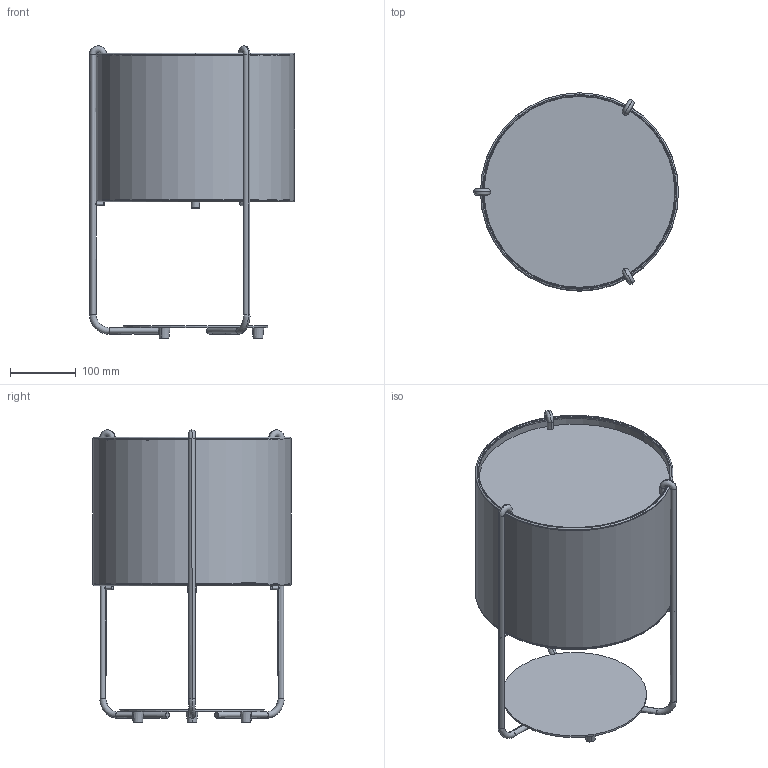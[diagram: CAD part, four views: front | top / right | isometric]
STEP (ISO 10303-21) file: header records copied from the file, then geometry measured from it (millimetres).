
FILE_DESCRIPTION(/* description */ (''),/* implementation_level */ '2;1');
FILE_NAME(/* name */ 'C:\Users\Franco Sartori E\Documents\FARO\Modelos\01_Indoor\DRUM\03_Publicación\24020_DRUM_TABLE_3D.stp',/* time_stamp */ '2020-04-15T13:52:08+02:00',/* author */ ('Franco Sartori E'),/* organization */ (''),/* preprocessor_version */ 'ST-DEVELOPER v18',/* originating_system */ 'AutoCAD Mechanical',/* authorisation */ '');
FILE_SCHEMA (('AUTOMOTIVE_DESIGN { 1 0 10303 214 3 1 1 }'));
Length unit declared in the file: millimetre
Products named in the file (2): Product; 2P0522_2P0524_DRUM_SHADE - DRUM Beige shade table lamp-4086-Export
Assembly tree (1 placements, depth 2):
  Product
    2P0522_2P0524_DRUM_SHADE - DRUM Beige shade table lamp-4086-Export
Bounding box: 311.5 x 301 x 443.99 mm (x, y, z)
Volume: 1244496.3 mm3; surface area: 2484844.3 mm2
Topology: 59 solids, 83 shells, 663 faces, 1557 edges, 1015 vertices
Faces by surface type: plane 255, cylinder 216, torus 74, cone 60, bspline 58
Entity records: 25337 total; most frequent: CARTESIAN_POINT 10564, DIRECTION 2957, ORIENTED_EDGE 2946, EDGE_CURVE 1551, AXIS2_PLACEMENT_3D 1170, VERTEX_POINT 1015, EDGE_LOOP 708, FACE_OUTER_BOUND 663
